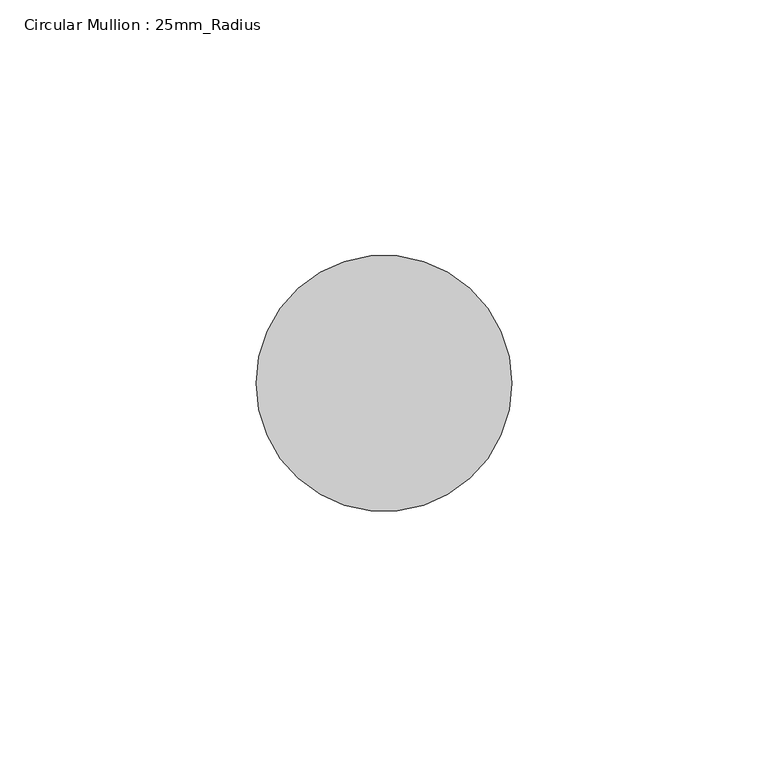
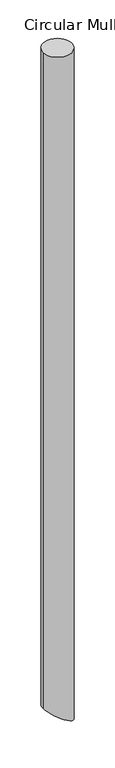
"""IFC4 building model written with IfcOpenShell, lengths in millimetres: member geometry, Circular Mullion : 25mm_Radius."""

import ifcopenshell
import ifcopenshell.guid

model = None  # the IFC model being written
_history = None  # IfcOwnerHistory: only IFC2X3 demands one
_inside = {}  # id of a spatial element -> (the spatial element, [elements in it])
_under = {}  # id of a project, library or spatial element -> (it, [spatial elements below it])
_declared = {}  # id of a project -> (the project, [libraries it declares])
_typed = {}  # id of a type object -> (the type object, [elements of that type])
_made_of = {}  # id of a material, layer set ... -> (it, [elements and type objects made of it])


def new_model(schema):
    """Start an empty IFC model of exactly this schema.

    Asked for "IFC4X3", IfcOpenShell would pick the latest addendum, in which some entities
    have other attributes; the version numbers below select the first issue.
    IFC2X3 requires an IfcOwnerHistory on every rooted entity: one is made here for all.
    """
    global model, _history
    if schema == "IFC4X3":
        model = ifcopenshell.file(schema_version=(4, 3, 0, 0))
    else:
        model = ifcopenshell.file(schema=schema)
    _inside.clear()
    _under.clear()
    _declared.clear()
    _typed.clear()
    _made_of.clear()
    _history = None
    if model.schema == "IFC2X3":
        org = make("IfcOrganization", Name="unknown")
        user = make(
            "IfcPersonAndOrganization",
            ThePerson=make("IfcPerson", FamilyName="unknown"),
            TheOrganization=org,
        )
        app = make(
            "IfcApplication",
            ApplicationDeveloper=org,
            Version="unknown",
            ApplicationFullName="unknown",
            ApplicationIdentifier="unknown",
        )
        _history = make(
            "IfcOwnerHistory",
            OwningUser=user,
            OwningApplication=app,
            ChangeAction="ADDED",
            CreationDate=0,
        )
    return model


def make(cls, **values):
    """One entity of the class cls with the attributes given. An attribute that is None is left unset."""
    return model.create_entity(
        cls, **{name: value for name, value in values.items() if value is not None}
    )


def rooted(cls, **values):
    """An entity with a GlobalId (a new one), such as an element, a storey or a relation."""
    return make(cls, GlobalId=ifcopenshell.guid.new(), OwnerHistory=_history, **values)


def si_unit(unit_type, name, prefix=None):
    """IfcSIUnit, for example si_unit("LENGTHUNIT", "METRE", prefix="MILLI")."""
    return make("IfcSIUnit", UnitType=unit_type, Prefix=prefix, Name=name)


def assignment(units):
    """IfcUnitAssignment: the units of a project."""
    return None if units is None else make("IfcUnitAssignment", Units=units)


def point(xyz):
    """IfcCartesianPoint."""
    return None if xyz is None else make("IfcCartesianPoint", Coordinates=xyz)


def direction(xyz):
    """IfcDirection."""
    return None if xyz is None else make("IfcDirection", DirectionRatios=xyz)


def frame(location, z_axis=None, x_axis=None):
    """IfcAxis2Placement3D, a coordinate frame: its origin and axes. An axis left out is left unset."""
    return make(
        "IfcAxis2Placement3D",
        Location=point(location),
        Axis=direction(z_axis),
        RefDirection=direction(x_axis),
    )


def origin():
    """The frame at (0, 0, 0) with its axes left unset."""
    return frame((0.0, 0.0, 0.0))


def place(relative_to, where):
    """IfcLocalPlacement: puts the frame where relative to a parent placement (None: the world)."""
    return make(
        "IfcLocalPlacement", PlacementRelTo=relative_to, RelativePlacement=where
    )


def context(
    kind, dimensions, precision=None, world=None, true_north=None, identifier=None
):
    """IfcGeometricRepresentationContext, for example the 3D "Model" context."""
    return make(
        "IfcGeometricRepresentationContext",
        ContextIdentifier=identifier,
        ContextType=kind,
        CoordinateSpaceDimension=dimensions,
        Precision=precision,
        WorldCoordinateSystem=world,
        TrueNorth=true_north,
    )


def project(units=None, contexts=None):
    """IfcProject with its units and contexts."""
    return rooted(
        "IfcProject",
        Name="project",
        RepresentationContexts=contexts,
        UnitsInContext=assignment(units),
    )


def spatial(cls, under=None, at=None, **own):
    """A site, building, storey or space (cls), placed at a placement, below another one or the project."""
    s = rooted(cls, ObjectPlacement=at, **own)
    if under is not None:
        _under.setdefault(under.id(), (under, []))[1].append(s)
    return s


def circle_curve(where, radius):
    """IfcCircle in the frame where."""
    return make("IfcCircle", Position=where, Radius=radius)


def ellipse_curve(where, semi_axis1, semi_axis2):
    """IfcEllipse in the frame where."""
    return make(
        "IfcEllipse", Position=where, SemiAxis1=semi_axis1, SemiAxis2=semi_axis2
    )


def shape(context_of_items, identifier, shape_type, items):
    """IfcShapeRepresentation: the items that make up one representation, for example the "Body"."""
    return make(
        "IfcShapeRepresentation",
        ContextOfItems=context_of_items,
        RepresentationIdentifier=identifier,
        RepresentationType=shape_type,
        Items=items,
    )


def source(mapping_origin, context_of_items, identifier, shape_type, items):
    """IfcRepresentationMap: a shape defined once, which mapped items show again and again."""
    return make(
        "IfcRepresentationMap",
        MappingOrigin=mapping_origin,
        MappedRepresentation=shape(context_of_items, identifier, shape_type, items),
    )


def transform(
    local_origin,
    x_axis=None,
    y_axis=None,
    z_axis=None,
    scale=None,
    scale2=None,
    scale3=None,
    uniform=True,
):
    """IfcCartesianTransformationOperator3D, or its non-uniform kind. x_axis, y_axis, z_axis: its Axis1, 2, 3."""
    if uniform:
        return make(
            "IfcCartesianTransformationOperator3D",
            Axis1=direction(x_axis),
            Axis2=direction(y_axis),
            LocalOrigin=point(local_origin),
            Scale=scale,
            Axis3=direction(z_axis),
        )
    return make(
        "IfcCartesianTransformationOperator3DnonUniform",
        Axis1=direction(x_axis),
        Axis2=direction(y_axis),
        LocalOrigin=point(local_origin),
        Scale=scale,
        Axis3=direction(z_axis),
        Scale2=scale2,
        Scale3=scale3,
    )


def mapped(mapping_source, mapping_target):
    """IfcMappedItem: shows the shape of a source again, moved by a transform."""
    return make(
        "IfcMappedItem", MappingSource=mapping_source, MappingTarget=mapping_target
    )


def made_of(thing, what):
    """Note that an element or type object is made of a material, layer set ...; save() writes the relation."""
    if what is not None:
        _made_of.setdefault(what.id(), (what, []))[1].append(thing)
    return thing


def element(
    cls,
    number,
    at=None,
    inside=None,
    cuts=None,
    type_object=None,
    material=None,
    context=None,
    identifier="Body",
    shape_type=None,
    held_by="IfcProductDefinitionShape",
    body=None,
    shapes=None,
    **own,
):
    """One element of the class cls, such as IfcWall. Its Tag is "e" and its number.

    at: its placement. inside: the storey or other place that contains it. cuts: it is an
    opening in that element (IfcRelVoidsElement). A single representation is given by context,
    identifier, shape_type and body (its items); several are given by shapes. held_by: the class
    of the entity that holds the representations. save() writes the other relations.
    """
    e = rooted(cls, Tag="e%d" % number, ObjectPlacement=at, **own)
    if body is not None:
        shapes = [shape(context, identifier, shape_type, body)]
    if shapes is not None:
        e.Representation = make(held_by, Representations=shapes)
    if inside is not None:
        _inside.setdefault(inside.id(), (inside, []))[1].append(e)
    if cuts is not None:
        rooted(
            "IfcRelVoidsElement", RelatingBuildingElement=cuts, RelatedOpeningElement=e
        )
    if type_object is not None:
        _typed.setdefault(type_object.id(), (type_object, []))[1].append(e)
    return made_of(e, material)


def aggregate(whole, parts):
    """IfcRelAggregates: a whole, such as a stair, and the parts it consists of."""
    return rooted("IfcRelAggregates", RelatingObject=whole, RelatedObjects=parts)


def save(model, path):
    """Write the relations noted so far, then the file.

    IfcRelAggregates (storeys below a building ...), IfcRelContainedInSpatialStructure (elements
    in a storey), IfcRelDefinesByType, IfcRelAssociatesMaterial and IfcRelDeclares: one each for
    every whole, place, type object, material and project.
    """
    for whole, parts in _under.values():
        aggregate(whole, parts)
    for where, things in _inside.values():
        rooted(
            "IfcRelContainedInSpatialStructure",
            RelatedElements=things,
            RelatingStructure=where,
        )
    for kind, things in _typed.values():
        rooted("IfcRelDefinesByType", RelatedObjects=things, RelatingType=kind)
    for what, things in _made_of.values():
        rooted("IfcRelAssociatesMaterial", RelatedObjects=things, RelatingMaterial=what)
    for by, libraries in _declared.values():
        rooted("IfcRelDeclares", RelatingContext=by, RelatedDefinitions=libraries)
    model.write(path)


def plane_surface(at):
    """IfcPlane: the flat surface through the origin of the frame at, square to its z axis."""
    return make("IfcPlane", Position=at)


def cylinder_surface(at, radius):
    """IfcCylindricalSurface: all points at the distance radius from the z axis of the frame at."""
    return make("IfcCylindricalSurface", Position=at, Radius=radius)


def advanced_brep(points, edges, surfaces, faces):
    """IfcAdvancedBrep: a solid bounded by faces that lie on surfaces and meet in shared edges.

    An edge is (start, end): straight between two places in points (the first is 0);
    or (start, end, curve); or (start, end, curve, False) where it runs against its curve.
    A face is (place in surfaces, loops), or (place, loops, False) where it looks against
    its surface's normal. A loop lists edges by number (the first is 1), with a minus sign
    where the edge is run from its end to its start. The first loop is the outer one.
    """
    corners = [point(p) for p in points]
    vertices = [make("IfcVertexPoint", VertexGeometry=c) for c in corners]
    made = []
    for start, end, *more in edges:
        made.append(
            make(
                "IfcEdgeCurve",
                EdgeStart=vertices[start],
                EdgeEnd=vertices[end],
                EdgeGeometry=more[0] if more else make("IfcPolyline", Points=[corners[start], corners[end]]),
                SameSense=more[1] if len(more) > 1 else True,
            )
        )
    hull = []
    for where, loops, *sense in faces:
        bounds = []
        for j, loop in enumerate(loops):
            ring = [make("IfcOrientedEdge", EdgeElement=made[abs(k) - 1], Orientation=k > 0) for k in loop]
            bounds.append(
                make(
                    "IfcFaceOuterBound" if j == 0 else "IfcFaceBound",
                    Bound=make("IfcEdgeLoop", EdgeList=ring),
                    Orientation=True,
                )
            )
        hull.append(make("IfcAdvancedFace", Bounds=bounds, FaceSurface=surfaces[where], SameSense=sense[0] if sense else True))
    return make("IfcAdvancedBrep", Outer=make("IfcClosedShell", CfsFaces=hull))


def circular_mullion_25mm_radius_a248b475(model_context):
    return source(origin(), model_context, "Body", "AdvancedBrep", [
        advanced_brep(
        [(-50.0, 0.0, 0.0), (0.0, 0.0, 0.0), (0.0, 0.0, -1230.8022634), (-50.0, 0.0, -1200.4255246)],
        [
            (0, 1, circle_curve(frame((-25.0, 0.0, 0.0), z_axis=(0.0, 0.0, -1.0), x_axis=(1.0, 0.0, 0.0)), 25.0)),
            (1, 2),
            (2, 3, ellipse_curve(frame((-25.0, 0.0, -1215.613894), z_axis=(0.5192228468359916, 0.0, 0.8546388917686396), x_axis=(-0.8546388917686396, 0.0, 0.5192228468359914)), 29.2521207, 25.0)),
            (3, 0),
            (1, 0, circle_curve(frame((-25.0, 0.0, 0.0), z_axis=(0.0, 0.0, -1.0), x_axis=(1.0, 0.0, 0.0)), 25.0)),
            (3, 2, ellipse_curve(frame((-25.0, 0.0, -1215.613894), z_axis=(0.5192228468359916, 0.0, 0.8546388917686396), x_axis=(-0.8546388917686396, 0.0, 0.5192228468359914)), 29.2521207, 25.0)),
        ],
        [
            cylinder_surface(frame((-25.0, 0.0, 0.0), z_axis=(0.0, 0.0, 1.0), x_axis=(1.0, 0.0, 0.0)), 25.0),
            plane_surface(frame((-304.8, 0.0, 0.0), z_axis=(0.0, 0.0, 1.0), x_axis=(0.0, 1.0, 0.0))),
            plane_surface(frame((0.0, -304.8, -1230.8022634), z_axis=(-0.5192228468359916, 0.0, -0.8546388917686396), x_axis=(-0.8546388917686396, 0.0, 0.5192228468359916))),
        ],
        [
            (0, [[1, 2, 3, 4]]),
            (0, [[5, -4, 6, -2]]),
            (1, [[-1, -5]]),
            (2, [[-6, -3]]),
        ],
    ),
    ])


if __name__ == "__main__":
    model = new_model("IFC4")
    model_context = context("Model", 3, world=origin())
    ifc_project = project(units=[si_unit("LENGTHUNIT", "METRE", prefix="MILLI")], contexts=[model_context])
    site = spatial("IfcSite", under=ifc_project)
    building = spatial("IfcBuilding", under=site)
    placement = place(None, origin())
    circular_mullion_25mm_radius_shape = circular_mullion_25mm_radius_a248b475(model_context)
    element("IfcMember", 1, ObjectType="Circular Mullion : 25mm_Radius", at=placement, inside=building, context=model_context, shape_type="MappedRepresentation", body=[
        mapped(circular_mullion_25mm_radius_shape, transform((0.0, 0.0, 0.0), x_axis=(1.0, 0.0, 0.0), y_axis=(0.0, 1.0, 0.0), z_axis=(0.0, 0.0, 1.0))),
    ])
    save(model, "model.ifc")
